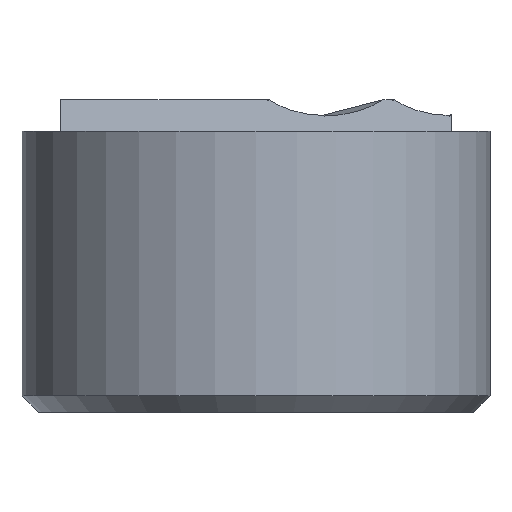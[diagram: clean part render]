
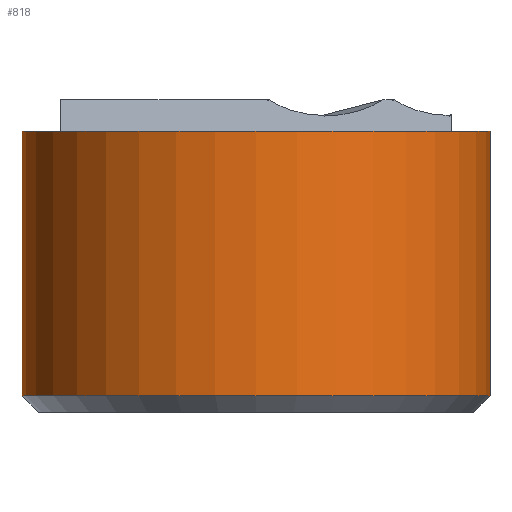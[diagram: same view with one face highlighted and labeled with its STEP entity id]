
A CAD part, front view. The second image highlights one B-rep face of the part: STEP entity #818.
In plain terms, the highlighted cylindrical face has radius 7.138 mm (diameter 14.275 mm), a partial arc.
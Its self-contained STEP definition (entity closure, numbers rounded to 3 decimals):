
#656=CARTESIAN_POINT('',(-7.138,-1.118,-3.297));
#657=VERTEX_POINT('',#656);
#675=CARTESIAN_POINT('',(7.138,-1.118,-3.297));
#676=VERTEX_POINT('',#675);
#683=CARTESIAN_POINT('',(0.0,-1.118,-3.297));
#684=DIRECTION('',(0.0,0.0,-1.0));
#685=DIRECTION('',(1.0,0.0,0.0));
#686=AXIS2_PLACEMENT_3D('',#683,#684,#685);
#687=CIRCLE('',#686,7.138);
#688=EDGE_CURVE('',#676,#657,#687,.T.);
#776=CARTESIAN_POINT('',(-7.138,-1.118,4.765));
#777=VERTEX_POINT('',#776);
#778=CARTESIAN_POINT('',(-7.138,-1.118,-3.297));
#779=DIRECTION('',(0.0,0.0,1.0));
#780=VECTOR('',#779,8.062);
#781=LINE('',#778,#780);
#782=EDGE_CURVE('',#657,#777,#781,.T.);
#794=CARTESIAN_POINT('',(0.0,-1.118,-4.765));
#795=DIRECTION('',(0.0,0.0,1.0));
#796=DIRECTION('',(1.0,0.0,0.0));
#797=AXIS2_PLACEMENT_3D('',#794,#795,#796);
#798=CYLINDRICAL_SURFACE('',#797,7.138);
#799=ORIENTED_EDGE('',*,*,#688,.F.);
#800=CARTESIAN_POINT('',(7.138,-1.118,4.765));
#801=VERTEX_POINT('',#800);
#802=CARTESIAN_POINT('',(7.138,-1.118,-3.297));
#803=DIRECTION('',(0.0,0.0,1.0));
#804=VECTOR('',#803,8.062);
#805=LINE('',#802,#804);
#806=EDGE_CURVE('',#676,#801,#805,.T.);
#807=ORIENTED_EDGE('',*,*,#806,.T.);
#808=CARTESIAN_POINT('',(0.0,-1.118,4.765));
#809=DIRECTION('',(0.0,0.0,-1.0));
#810=DIRECTION('',(1.0,0.0,0.0));
#811=AXIS2_PLACEMENT_3D('',#808,#809,#810);
#812=CIRCLE('',#811,7.138);
#813=EDGE_CURVE('',#801,#777,#812,.T.);
#814=ORIENTED_EDGE('',*,*,#813,.T.);
#815=ORIENTED_EDGE('',*,*,#782,.F.);
#816=EDGE_LOOP('',(#799,#807,#814,#815));
#817=FACE_OUTER_BOUND('',#816,.T.);
#818=ADVANCED_FACE('',(#817),#798,.T.);
